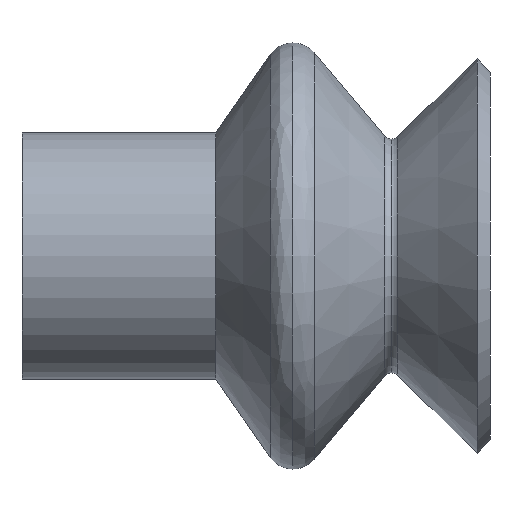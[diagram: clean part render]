
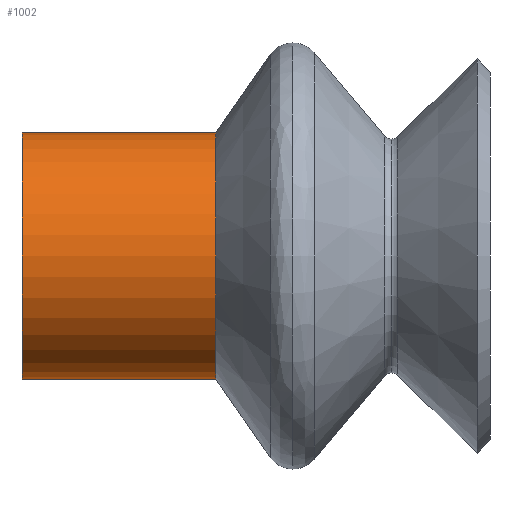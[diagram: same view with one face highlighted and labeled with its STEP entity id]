
A CAD part, left-side view. The second image highlights one B-rep face of the part: STEP entity #1002.
In plain terms, the highlighted cylindrical face has radius 5 mm (diameter 10 mm), a partial arc.
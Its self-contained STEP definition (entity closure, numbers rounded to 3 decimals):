
#10 = EDGE_LOOP ( 'NONE', ( #683, #21, #264, #817 ) ) ;
#12 = CIRCLE ( 'NONE', #347, 5. ) ;
#21 = ORIENTED_EDGE ( 'NONE', *, *, #392, .T. ) ;
#63 = CYLINDRICAL_SURFACE ( 'NONE', #618, 5. ) ;
#141 = VERTEX_POINT ( 'NONE', #833 ) ;
#144 = FACE_OUTER_BOUND ( 'NONE', #10, .T. ) ;
#264 = ORIENTED_EDGE ( 'NONE', *, *, #723, .T. ) ;
#319 = CARTESIAN_POINT ( 'NONE',  ( 0., -7.869, 0. ) ) ;
#339 = CARTESIAN_POINT ( 'NONE',  ( 0., 1.1, -5. ) ) ;
#347 = AXIS2_PLACEMENT_3D ( 'NONE', #319, #860, #1068 ) ;
#365 = CIRCLE ( 'NONE', #1000, 5. ) ;
#392 = EDGE_CURVE ( 'NONE', #141, #1053, #12, .T. ) ;
#393 = CARTESIAN_POINT ( 'NONE',  ( 0., 1.1, 0. ) ) ;
#420 = DIRECTION ( 'NONE',  ( 0., 0., 1. ) ) ;
#453 = LINE ( 'NONE', #701, #941 ) ;
#599 = DIRECTION ( 'NONE',  ( 0., 1., 0. ) ) ;
#618 = AXIS2_PLACEMENT_3D ( 'NONE', #393, #742, #1015 ) ;
#656 = VERTEX_POINT ( 'NONE', #1008 ) ;
#683 = ORIENTED_EDGE ( 'NONE', *, *, #1059, .F. ) ;
#691 = VERTEX_POINT ( 'NONE', #873 ) ;
#695 = CARTESIAN_POINT ( 'NONE',  ( 0., -7.869, 5. ) ) ;
#701 = CARTESIAN_POINT ( 'NONE',  ( 0., 1.1, 5. ) ) ;
#723 = EDGE_CURVE ( 'NONE', #1053, #656, #453, .T. ) ;
#742 = DIRECTION ( 'NONE',  ( 0., 1., 0. ) ) ;
#817 = ORIENTED_EDGE ( 'NONE', *, *, #926, .F. ) ;
#827 = CARTESIAN_POINT ( 'NONE',  ( 0., 0., 0. ) ) ;
#833 = CARTESIAN_POINT ( 'NONE',  ( 0., -7.869, -5. ) ) ;
#859 = DIRECTION ( 'NONE',  ( 0., 1., 0. ) ) ;
#860 = DIRECTION ( 'NONE',  ( 0., 1., 0. ) ) ;
#873 = CARTESIAN_POINT ( 'NONE',  ( 0., 0., -5. ) ) ;
#910 = DIRECTION ( 'NONE',  ( 0., 1., 0. ) ) ;
#926 = EDGE_CURVE ( 'NONE', #691, #656, #365, .T. ) ;
#941 = VECTOR ( 'NONE', #859, 1000. ) ;
#947 = LINE ( 'NONE', #339, #1101 ) ;
#1000 = AXIS2_PLACEMENT_3D ( 'NONE', #827, #910, #420 ) ;
#1002 = ADVANCED_FACE ( 'NONE', ( #144 ), #63, .T. ) ;
#1008 = CARTESIAN_POINT ( 'NONE',  ( 0., 0., 5. ) ) ;
#1015 = DIRECTION ( 'NONE',  ( 0., 0., 1. ) ) ;
#1053 = VERTEX_POINT ( 'NONE', #695 ) ;
#1059 = EDGE_CURVE ( 'NONE', #141, #691, #947, .T. ) ;
#1068 = DIRECTION ( 'NONE',  ( 0., 0., -1. ) ) ;
#1101 = VECTOR ( 'NONE', #599, 1000. ) ;
